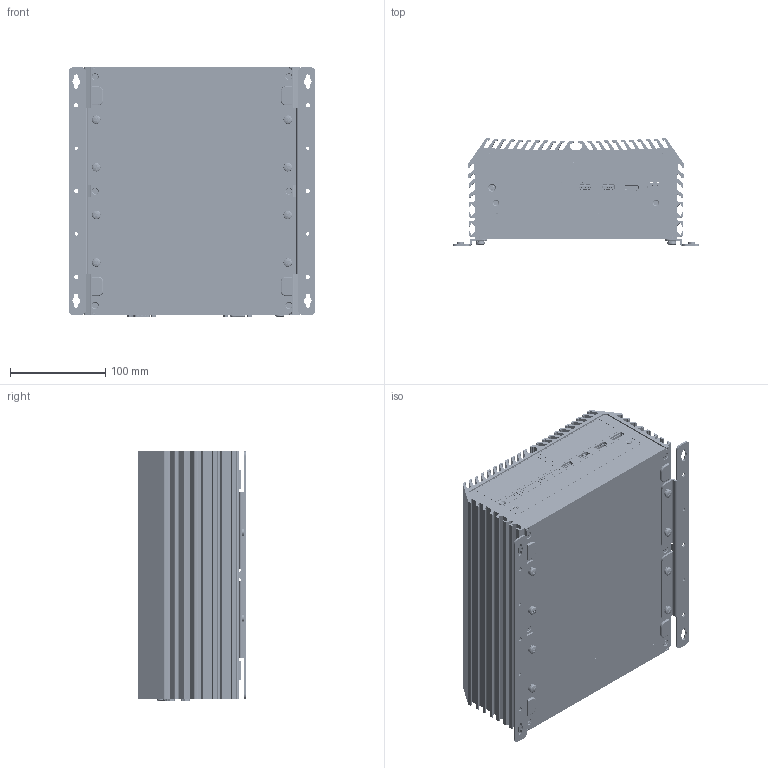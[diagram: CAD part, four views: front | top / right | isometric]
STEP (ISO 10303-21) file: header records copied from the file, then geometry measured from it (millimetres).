
FILE_DESCRIPTION (( 'STEP AP214' ), '1' );
FILE_NAME ('1-DS-1501-¼Ð·Ç-20250203-¥~Æ[.STEP', '2025-04-18T10:22:14', ( '' ), ( '' ), 'SwSTEP 2.0', 'SolidWorks 2014', '' );
FILE_SCHEMA (( 'AUTOMOTIVE_DESIGN' ));
Length unit declared in the file: millimetre
Products named in the file (44): Rubber Foot Shore(M4-RUFT0100001); DS-1501-Riser Card Bracket(M1-107150153400)-20240216; USB3.0-2L+RJ45-JFM38U1B-B313-4F(23-D0202300320); 導熱膏A; DS-1301-Front Bezel(M1-407130124100)-20200311; Screw-丸頭-十字-外齒-M5x8(M3-SCREAB00002); DS-1301-Rear Bezel(M1-407130134100)-20200311; Screw-丸頭-十字-耐落-SW-M5x6(M3-SCREAB00001); DS-100X-Top Cover-銅管(M0-ZZZZ17C0000); DS-1200-Front Bezel Matching Bezel(M1-407120084100); DS-1200-Bottom Cover(M1-407120011200)-20180821; DS-1201-Top Cover asm-金金-20180402; D330H1SL72211DD0; PWR_BTN_TC003; USB-3.0-SMT-T.H(122-0921NX0504); 23-D0351500040_CN2_MINIDIN_USBX2; DS-1200-Bottom Cover asm-20200406; AUTIO_2IN1; Top Cover(M1-407120106300)-DS-1201-金金-20181015; DS-1500-PCBA-ASM-20250203; USB3.1-2+RJ45-JFM48U1B-BA04(2.5G)(23-D0572300320); Screw-耐落-沙拉-90-星型-T10-黑-M3x8(M3-N103082260); 1-DS-1501-標準-20250203-外觀; DS-1101-Riser Card Bracket-A(M1-107110153400); DS-1500-Front Open Bezel(M1-407150084100); DS-1500-Main Board asm-20250203; DS-Wall Mount Bracket(M1-ZZZZ3611004); Screw-沙拉-120-星型-T10+E型扣-黑-M3x13(M3-1103132270+M3-402004050415); Screw-耐落-沙拉-120-星型-T10-黑-M3x5(M3-N103052230); 銅柱-4-4OUNC-4.8_11.8H(M3-COSD6L00000)東莞?輝; DS-1300-Front Bezel-symbol_panel(M0-ZZZZ5C30009)-20200923; 導熱膏B; DS-100X-Top Cover-銅管固定片(M1-ZZZZ4600000)-展煜-金金; WHDM-19FLBSDR; Hole Plugs(M4-RUBR0100004)-M06V0; 23-D0242300200_DP1_DISPLAYPORT; 23-D0341500040_FAN2_ECH350R_3P_1LAYER; Screw-耐落-沙拉-120-十字-M3X4(M3-N103042010)_M3*4; D20H1P1PA1X2A111N2 (3D); DS-MEC KIT-Universal Bracket(M1-ZZZZ3613001)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
Assembly tree (85 placements, depth 4):
  1-DS-1501-標準-20250203-外觀
    DS-1500-PCBA-ASM-20250203
      DS-1500-Main Board asm-20250203
        23-D0351500040_CN1_ECHB350R-04P
        AUTIO_2IN1
        D20H1P1PA1X2A111N2 (3D)
        23-D0351500040_CN2_MINIDIN_USBX2
        D330H1SL72211DD0
        23-D0242300200_DP1_DISPLAYPORT  x2
        23-D0341500040_FAN2_ECH350R_3P_1LAYER
        23-D0341500030_DC_IN1_5EHDRM-03P_8
        PWR_BTN_TC003
        USB-3.0-SMT-T.H(122-0921NX0504)  x2
        WHDM-19FLBSDR
        USB3.0-2L+RJ45-JFM38U1B-B313-4F(23-D0202300320)
        USB3.1-2+RJ45-JFM48U1B-BA04(2.5G)(23-D0572300320)
    DS-1301-Front Bezel(M1-407130124100)-20200311
    DS-1300-Front Bezel-symbol_panel(M0-ZZZZ5C30009)-20200923
    DS-1500-Front Open Bezel(M1-407150084100)
    DS-1200-Front Bezel Matching Bezel(M1-407120084100)  x2
    DS-1301-Rear Bezel(M1-407130134100)-20200311
    DS-MEC KIT-Universal Bracket(M1-ZZZZ3613001)  x2
    DS-1201-Top Cover asm-金金-20180402
      Top Cover(M1-407120106300)-DS-1201-金金-20181015
      導熱膏A
      導熱膏B
      DS-100X-Top Cover-銅管(M0-ZZZZ17C0000)  x2
      DS-100X-Top Cover-銅管固定片(M1-ZZZZ4600000)-展煜-金金  x4
      Screw-耐落-沙拉-120-十字-M3X4(M3-N103042010)_M3*4  x8
    DS-1200-Bottom Cover asm-20200406
      DS-1200-Bottom Cover(M1-407120011200)-20180821
      Rubber Foot Shore(M4-RUFT0100001)  x4
    Screw-耐落-沙拉-120-星型-T10-黑-M3x5(M3-N103052230)  x5
    Screw-耐落-沙拉-90-星型-T10-黑-M3x8(M3-N103082260)  x6
    Screw-沙拉-120-星型-T10+E型扣-黑-M3x13(M3-1103132270+M3-402004050415)  x2
    Screw-丸頭-十字-外齒-M5x8(M3-SCREAB00002)
    Hole Plugs(M4-RUBR0100004)-M06V0  x2
    DS-Wall Mount Bracket(M1-ZZZZ3611004)  x2
    Screw-丸頭-十字-耐落-SW-M5x6(M3-SCREAB00001)  x8
    銅柱-4-4OUNC-4.8_11.8H(M3-COSD6L00000)東莞?輝  x6
    DS-1501-Riser Card Bracket asm-20240216
      DS-1501-Riser Card Bracket(M1-107150153400)-20240216
        DS-1101-Riser Card Bracket-A(M1-107110153400)
      L-Bracket(M0-LBKT2300017)
Bounding box: 259 x 112.78 x 262.9 mm (x, y, z)
Volume: 1400769.3 mm3; surface area: 802717.8 mm2
Topology: 104 solids, 304 shells, 23081 faces, 63932 edges, 41391 vertices
Faces by surface type: plane 14109, cylinder 6280, bspline 2343, cone 237, sphere 70, torus 42
Entity records: 804332 total; most frequent: CARTESIAN_POINT 220510, ORIENTED_EDGE 104986, DIRECTION 84239, EDGE_CURVE 52701, VECTOR 35715, LINE 35715, VERTEX_POINT 34143, AXIS2_PLACEMENT_3D 24262
